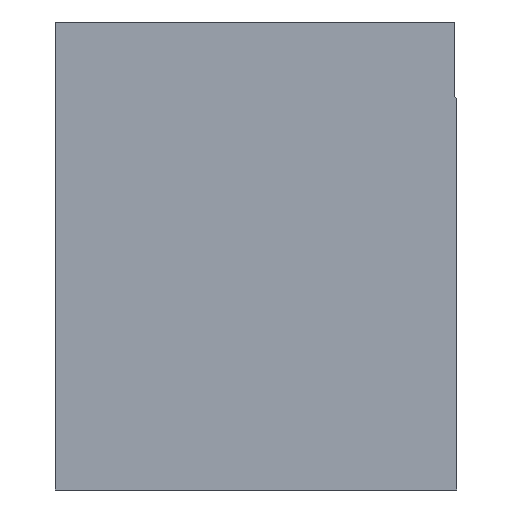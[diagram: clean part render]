
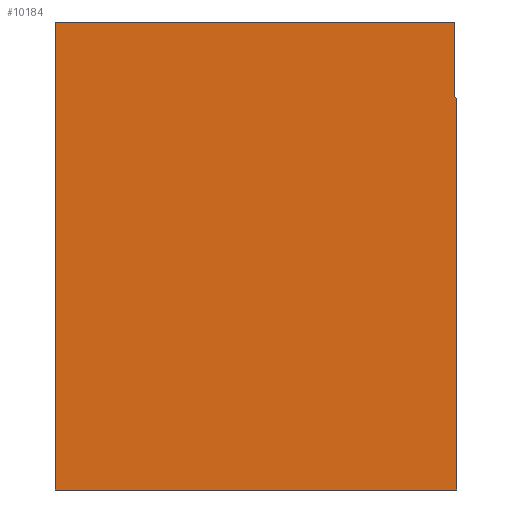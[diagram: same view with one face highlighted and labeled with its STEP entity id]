
A CAD part, front view. The second image highlights one B-rep face of the part: STEP entity #10184.
In plain terms, the highlighted planar face has unit normal (0, -1, 0).
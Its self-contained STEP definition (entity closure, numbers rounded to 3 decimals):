
#241 = EDGE_CURVE ( 'NONE', #2054, #7162, #11874, .T. ) ;
#359 = LINE ( 'NONE', #8618, #5871 ) ;
#377 = EDGE_LOOP ( 'NONE', ( #8887, #6133, #3883, #11820, #5216, #1585 ) ) ;
#1337 = VECTOR ( 'NONE', #19163, 1000. ) ;
#1585 = ORIENTED_EDGE ( 'NONE', *, *, #4961, .T. ) ;
#1939 = VECTOR ( 'NONE', #16750, 1000. ) ;
#2054 = VERTEX_POINT ( 'NONE', #14924 ) ;
#2653 = CARTESIAN_POINT ( 'NONE',  ( 7.35, 0.3, 14.6 ) ) ;
#3232 = AXIS2_PLACEMENT_3D ( 'NONE', #5815, #17141, #12264 ) ;
#3307 = EDGE_CURVE ( 'NONE', #19957, #18099, #17152, .T. ) ;
#3883 = ORIENTED_EDGE ( 'NONE', *, *, #18336, .F. ) ;
#4552 = PLANE ( 'NONE',  #3232 ) ;
#4961 = EDGE_CURVE ( 'NONE', #7162, #18099, #15584, .T. ) ;
#5216 = ORIENTED_EDGE ( 'NONE', *, *, #241, .T. ) ;
#5326 = DIRECTION ( 'NONE',  ( 1., 0., 0. ) ) ;
#5609 = VECTOR ( 'NONE', #19955, 1000. ) ;
#5815 = CARTESIAN_POINT ( 'NONE',  ( -7.4, 0.3, 13.506 ) ) ;
#5871 = VECTOR ( 'NONE', #5326, 1000. ) ;
#6034 = DIRECTION ( 'NONE',  ( 0., -1., 0. ) ) ;
#6133 = ORIENTED_EDGE ( 'NONE', *, *, #16054, .T. ) ;
#7039 = CARTESIAN_POINT ( 'NONE',  ( 7.55, 0.3, 13.506 ) ) ;
#7162 = VERTEX_POINT ( 'NONE', #11018 ) ;
#7333 = DIRECTION ( 'NONE',  ( -1., 0., 0. ) ) ;
#8405 = CARTESIAN_POINT ( 'NONE',  ( -7.55, 0.3, 0. ) ) ;
#8618 = CARTESIAN_POINT ( 'NONE',  ( -7.725, 0.3, 0. ) ) ;
#8887 = ORIENTED_EDGE ( 'NONE', *, *, #3307, .F. ) ;
#9688 = AXIS2_PLACEMENT_3D ( 'NONE', #2653, #6034, #14172 ) ;
#10184 = ADVANCED_FACE ( 'NONE', ( #14176 ), #4552, .T. ) ;
#10284 = CARTESIAN_POINT ( 'NONE',  ( 7.475, 0.3, 14.787 ) ) ;
#10810 = CARTESIAN_POINT ( 'NONE',  ( 7.475, 0.3, 17.6 ) ) ;
#11018 = CARTESIAN_POINT ( 'NONE',  ( 7.475, 0.3, 17.6 ) ) ;
#11031 = CARTESIAN_POINT ( 'NONE',  ( 7.55, 0.3, 14.703 ) ) ;
#11534 = VECTOR ( 'NONE', #7333, 1000. ) ;
#11579 = LINE ( 'NONE', #7039, #5609 ) ;
#11820 = ORIENTED_EDGE ( 'NONE', *, *, #18926, .T. ) ;
#11874 = LINE ( 'NONE', #10284, #1939 ) ;
#12264 = DIRECTION ( 'NONE',  ( 0., 0., -1. ) ) ;
#14172 = DIRECTION ( 'NONE',  ( 0., 0., -1. ) ) ;
#14176 = FACE_OUTER_BOUND ( 'NONE', #377, .T. ) ;
#14482 = VERTEX_POINT ( 'NONE', #11031 ) ;
#14924 = CARTESIAN_POINT ( 'NONE',  ( 7.475, 0.3, 14.787 ) ) ;
#15584 = LINE ( 'NONE', #10810, #11534 ) ;
#16054 = EDGE_CURVE ( 'NONE', #19957, #20809, #359, .T. ) ;
#16750 = DIRECTION ( 'NONE',  ( 0., 0., 1. ) ) ;
#17141 = DIRECTION ( 'NONE',  ( 0., -1., 0. ) ) ;
#17152 = LINE ( 'NONE', #17360, #1337 ) ;
#17360 = CARTESIAN_POINT ( 'NONE',  ( -7.55, 0.3, 13.506 ) ) ;
#18099 = VERTEX_POINT ( 'NONE', #20508 ) ;
#18336 = EDGE_CURVE ( 'NONE', #14482, #20809, #11579, .T. ) ;
#18806 = CIRCLE ( 'NONE', #9688, 0.225 ) ;
#18926 = EDGE_CURVE ( 'NONE', #14482, #2054, #18806, .T. ) ;
#19163 = DIRECTION ( 'NONE',  ( 0., 0., 1. ) ) ;
#19643 = CARTESIAN_POINT ( 'NONE',  ( 7.55, 0.3, 0. ) ) ;
#19955 = DIRECTION ( 'NONE',  ( 0., 0., -1. ) ) ;
#19957 = VERTEX_POINT ( 'NONE', #8405 ) ;
#20508 = CARTESIAN_POINT ( 'NONE',  ( -7.55, 0.3, 17.6 ) ) ;
#20809 = VERTEX_POINT ( 'NONE', #19643 ) ;
